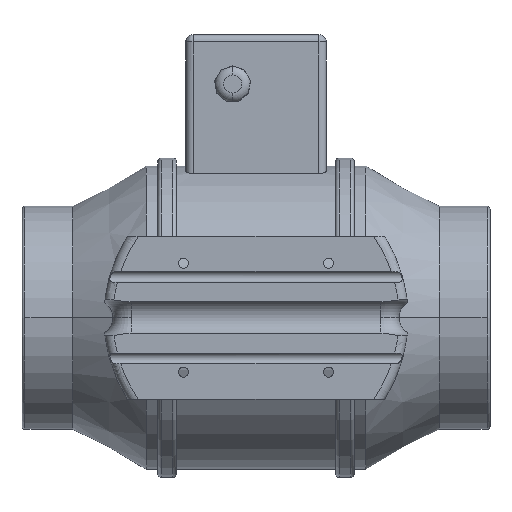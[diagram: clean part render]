
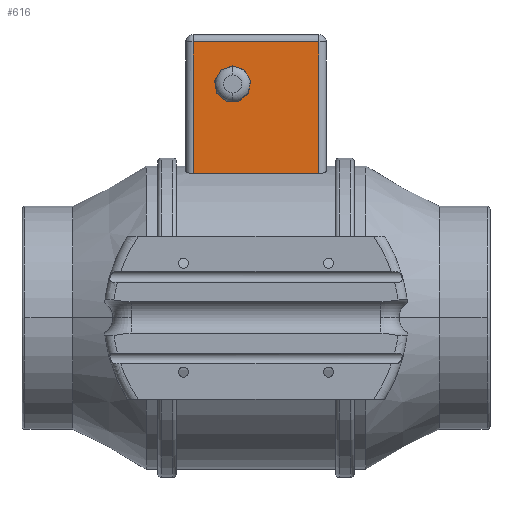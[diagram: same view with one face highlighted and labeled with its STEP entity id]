
A CAD part, front view. The second image highlights one B-rep face of the part: STEP entity #616.
In plain terms, the highlighted planar face has unit normal (0, -1, 0).
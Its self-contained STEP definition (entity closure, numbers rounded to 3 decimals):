
#616=ADVANCED_FACE('',(#1277,#1278),#1279,.T.);
#1277=FACE_OUTER_BOUND('',#1970,.T.);
#1278=FACE_BOUND('',#1971,.T.);
#1279=PLANE('',#1972);
#1970=EDGE_LOOP('',(#3821,#3822,#3823,#3824));
#1971=EDGE_LOOP('',(#3825,#3826,#3827,#3828,#3829,#3830,#3831,#3832,#3833));
#1972=AXIS2_PLACEMENT_3D('',#3834,#3835,#3836);
#3821=ORIENTED_EDGE('',*,*,#4235,.F.);
#3822=ORIENTED_EDGE('',*,*,#4877,.T.);
#3823=ORIENTED_EDGE('',*,*,#4862,.T.);
#3824=ORIENTED_EDGE('',*,*,#4823,.F.);
#3825=ORIENTED_EDGE('',*,*,#4879,.F.);
#3826=ORIENTED_EDGE('',*,*,#4880,.F.);
#3827=ORIENTED_EDGE('',*,*,#4881,.F.);
#3828=ORIENTED_EDGE('',*,*,#4882,.F.);
#3829=ORIENTED_EDGE('',*,*,#4883,.F.);
#3830=ORIENTED_EDGE('',*,*,#4884,.F.);
#3831=ORIENTED_EDGE('',*,*,#4885,.F.);
#3832=ORIENTED_EDGE('',*,*,#4886,.F.);
#3833=ORIENTED_EDGE('',*,*,#4887,.F.);
#3834=CARTESIAN_POINT('',(0.,-25.8,0.0));
#3835=DIRECTION('',(0.,-1.0,0.0));
#3836=DIRECTION('',(1.0,0.,-0.0));
#4235=EDGE_CURVE('',#5109,#5096,#5111,.T.);
#4823=EDGE_CURVE('',#5096,#5977,#5978,.T.);
#4862=EDGE_CURVE('',#6021,#5977,#6025,.T.);
#4877=EDGE_CURVE('',#5109,#6021,#6041,.T.);
#4879=EDGE_CURVE('',#6043,#6044,#6045,.T.);
#4880=EDGE_CURVE('',#6046,#6043,#6047,.T.);
#4881=EDGE_CURVE('',#6048,#6046,#6049,.T.);
#4882=EDGE_CURVE('',#6050,#6048,#6051,.T.);
#4883=EDGE_CURVE('',#6052,#6050,#6053,.T.);
#4884=EDGE_CURVE('',#6054,#6052,#6055,.T.);
#4885=EDGE_CURVE('',#6056,#6054,#6057,.T.);
#4886=EDGE_CURVE('',#6058,#6056,#6059,.T.);
#4887=EDGE_CURVE('',#6044,#6058,#6060,.T.);
#5096=VERTEX_POINT('',#6624);
#5109=VERTEX_POINT('',#6702);
#5111=LINE('',#6726,#6727);
#5977=VERTEX_POINT('',#9928);
#5978=LINE('',#9929,#9930);
#6021=VERTEX_POINT('',#9985);
#6025=LINE('',#9989,#9990);
#6041=LINE('',#10009,#10010);
#6043=VERTEX_POINT('',#10012);
#6044=VERTEX_POINT('',#10013);
#6045=LINE('',#10014,#10015);
#6046=VERTEX_POINT('',#10016);
#6047=LINE('',#10017,#10018);
#6048=VERTEX_POINT('',#10019);
#6049=LINE('',#10020,#10021);
#6050=VERTEX_POINT('',#10022);
#6051=LINE('',#10023,#10024);
#6052=VERTEX_POINT('',#10025);
#6053=LINE('',#10026,#10027);
#6054=VERTEX_POINT('',#10028);
#6055=LINE('',#10029,#10030);
#6056=VERTEX_POINT('',#10031);
#6057=LINE('',#10032,#10033);
#6058=VERTEX_POINT('',#10034);
#6059=LINE('',#10035,#10036);
#6060=LINE('',#10037,#10038);
#6624=CARTESIAN_POINT('',(-34.7,-25.8,79.519));
#6702=CARTESIAN_POINT('',(34.7,-25.8,79.519));
#6726=CARTESIAN_POINT('',(0.,-25.8,79.519));
#6727=VECTOR('',#10507,1.0);
#9928=CARTESIAN_POINT('',(-34.7,-25.8,152.0));
#9929=CARTESIAN_POINT('',(-34.7,-25.8,0.0));
#9930=VECTOR('',#11257,1.0);
#9985=CARTESIAN_POINT('',(34.7,-25.8,152.0));
#9989=CARTESIAN_POINT('',(0.,-25.8,152.0));
#9990=VECTOR('',#11309,1.0);
#10009=CARTESIAN_POINT('',(34.7,-25.8,0.0));
#10010=VECTOR('',#11325,1.0);
#10012=CARTESIAN_POINT('',(-6.472,-25.8,136.46));
#10013=CARTESIAN_POINT('',(-12.9,-25.8,138.8));
#10014=CARTESIAN_POINT('',(16.707,-25.8,128.024));
#10015=VECTOR('',#11326,1.0);
#10016=CARTESIAN_POINT('',(-3.052,-25.8,130.536));
#10017=CARTESIAN_POINT('',(24.736,-25.8,82.406));
#10018=VECTOR('',#11327,1.0);
#10019=CARTESIAN_POINT('',(-4.24,-25.8,123.8));
#10020=CARTESIAN_POINT('',(-14.464,-25.8,65.813));
#10021=VECTOR('',#11328,1.0);
#10022=CARTESIAN_POINT('',(-9.48,-25.8,119.403));
#10023=CARTESIAN_POINT('',(-34.786,-25.8,98.169));
#10024=VECTOR('',#11329,1.0);
#10025=CARTESIAN_POINT('',(-16.32,-25.8,119.403));
#10026=CARTESIAN_POINT('',(-6.45,-25.8,119.403));
#10027=VECTOR('',#11330,1.0);
#10028=CARTESIAN_POINT('',(-21.56,-25.8,123.8));
#10029=CARTESIAN_POINT('',(16.556,-25.8,91.817));
#10030=VECTOR('',#11331,1.0);
#10031=CARTESIAN_POINT('',(-22.748,-25.8,130.536));
#10032=CARTESIAN_POINT('',(-10.947,-25.8,63.607));
#10033=VECTOR('',#11332,1.0);
#10034=CARTESIAN_POINT('',(-19.328,-25.8,136.46));
#10035=CARTESIAN_POINT('',(-47.311,-25.8,87.991));
#10036=VECTOR('',#11333,1.0);
#10037=CARTESIAN_POINT('',(-31.116,-25.8,132.17));
#10038=VECTOR('',#11334,1.0);
#10507=DIRECTION('',(-1.0,-0.0,-0.0));
#11257=DIRECTION('',(0.0,0.0,1.0));
#11309=DIRECTION('',(-1.0,0.,0.));
#11325=DIRECTION('',(0.0,0.0,1.0));
#11326=DIRECTION('',(-0.94,0.,0.342));
#11327=DIRECTION('',(-0.5,0.,0.866));
#11328=DIRECTION('',(0.174,0.,0.985));
#11329=DIRECTION('',(0.766,0.,0.643));
#11330=DIRECTION('',(1.0,0.,0.));
#11331=DIRECTION('',(0.766,0.,-0.643));
#11332=DIRECTION('',(0.174,0.,-0.985));
#11333=DIRECTION('',(-0.5,0.,-0.866));
#11334=DIRECTION('',(-0.94,0.,-0.342));
